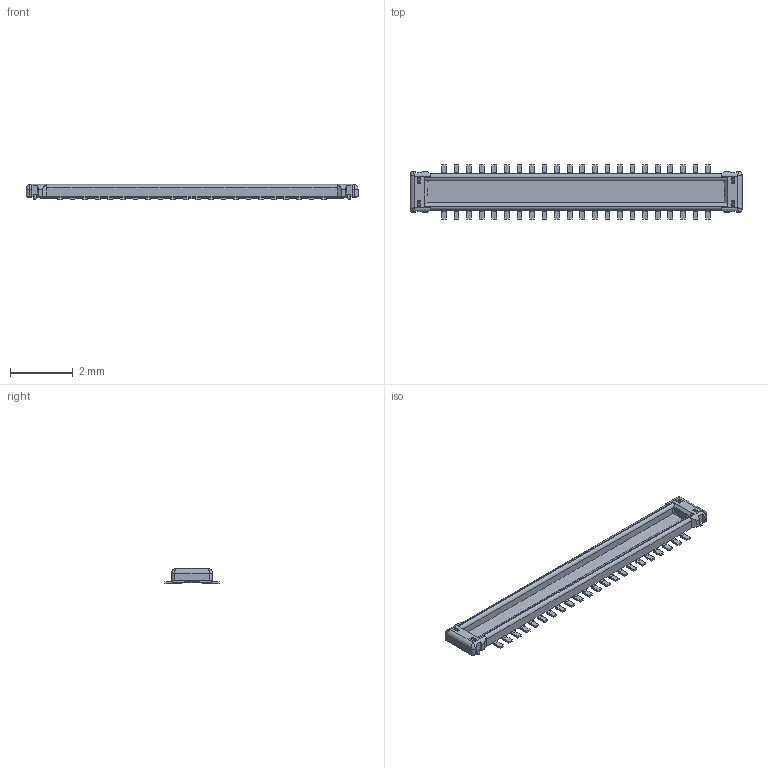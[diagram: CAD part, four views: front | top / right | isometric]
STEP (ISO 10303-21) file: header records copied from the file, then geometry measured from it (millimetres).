
FILE_DESCRIPTION(('CATIA V5 STEP Exchange'),'2;1');
FILE_NAME('D:\(編集厳禁)\3D 備用 (編集厳禁)\3D 備用5xxx拘束済み\5806-李-2 PIN変更 ●\業務用\8.20.13\002 Type\10_5806_044_002_829_+.stp','2013-08-20T01:21:11+00:00',('none'),('none'),'CATIA Version 5 Release 19 SP 8 (IN-10)','CATIA V5 STEP AP214','none');
FILE_SCHEMA(('AUTOMOTIVE_DESIGN { 1 0 10303 214 1 1 1 1 }'));
Length unit declared in the file: millimetre
Products named in the file (1): Plug_W_AP_Rev0_AllCATPart
Bounding box: 10.56 x 1.72 x 0.48 mm (x, y, z)
Volume: 3.2 mm3; surface area: 48.8 mm2
Topology: 1 solids, 1 shells, 597 faces, 1861 edges, 1263 vertices
Faces by surface type: plane 463, cylinder 126, torus 4, bspline 4
Entity records: 19430 total; most frequent: CARTESIAN_POINT 4507, ORIENTED_EDGE 3722, DIRECTION 2187, EDGE_CURVE 1861, VECTOR 1523, LINE 1523, VERTEX_POINT 1263, EDGE_LOOP 606
